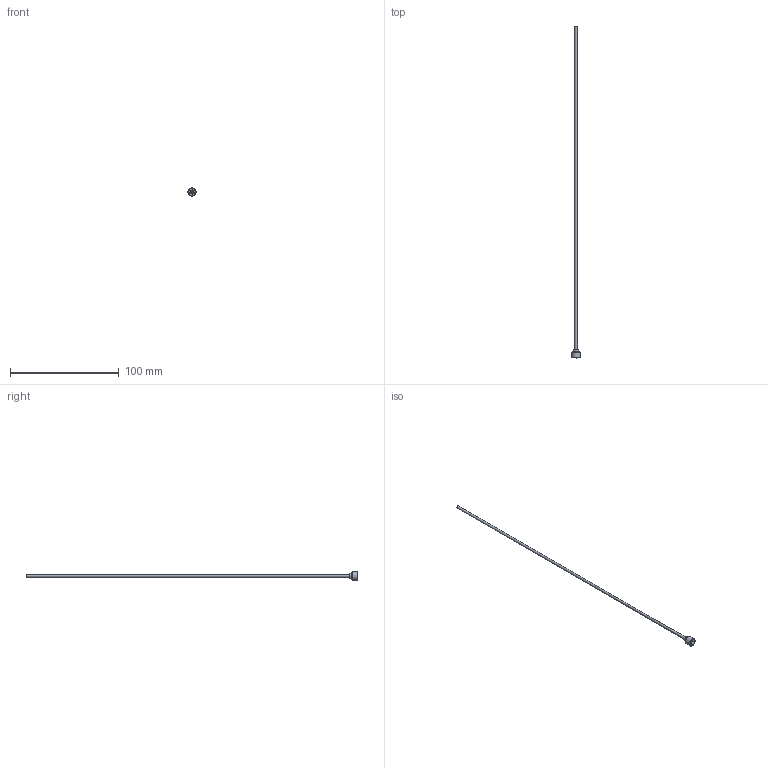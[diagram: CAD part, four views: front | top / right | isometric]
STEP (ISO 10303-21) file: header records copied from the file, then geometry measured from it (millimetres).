
FILE_DESCRIPTION(/* description */ (''),/* implementation_level */ '2;1');
FILE_NAME(/* name */ 'C:/Users/drich/Desktop/PT16-093-12 v1.step',/* time_stamp */ '2019-12-27T15:15:25-06:00',/* author */ (''),/* organization */ (''),/* preprocessor_version */ 'ST-DEVELOPER v18',/* originating_system */ 'Autodesk Translation Framework v8.12.0.6',/* authorisation */ '');
FILE_SCHEMA (('AUTOMOTIVE_DESIGN { 1 0 10303 214 3 1 1 }'));
Length unit declared in the file: inch
Products named in the file (1): PT16-093-12
Bounding box: 7.62 x 304.8 x 7.62 mm (x, y, z)
Volume: 583.6 mm3; surface area: 4245.6 mm2
Topology: 1 solids, 1 shells, 19 faces, 48 edges, 34 vertices
Faces by surface type: plane 11, cylinder 4, torus 2, cone 2
Full cylindrical faces by diameter (mm): 1.93 x1, 2.286 x1, 4.724 x1, 7.616 x1
Entity records: 633 total; most frequent: DIRECTION 112, CARTESIAN_POINT 102, ORIENTED_EDGE 96, EDGE_CURVE 48, AXIS2_PLACEMENT_3D 44, VERTEX_POINT 34, CIRCLE 24, EDGE_LOOP 24
